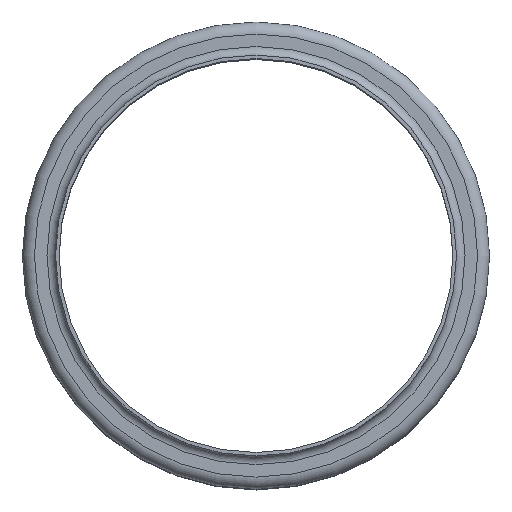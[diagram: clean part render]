
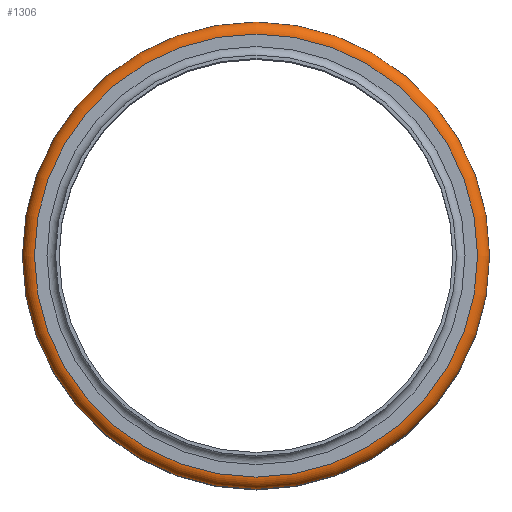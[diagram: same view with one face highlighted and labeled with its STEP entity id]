
A CAD part, top view. The second image highlights one B-rep face of the part: STEP entity #1306.
In plain terms, the highlighted toroidal (fillet/blend) face has major radius 153.562 mm and minor radius 8.363 mm.
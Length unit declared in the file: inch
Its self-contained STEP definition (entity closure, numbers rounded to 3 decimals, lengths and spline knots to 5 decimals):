
#79=TOROIDAL_SURFACE('',#1577,6.04575,0.32925);
#230=FACE_OUTER_BOUND('',#385,.T.);
#385=EDGE_LOOP('',(#1110,#1111,#1112,#1113));
#546=CIRCLE('',#1576,6.04575);
#547=CIRCLE('',#1578,6.04575);
#548=CIRCLE('',#1579,0.32925);
#659=VERTEX_POINT('',#2474);
#660=VERTEX_POINT('',#2477);
#812=EDGE_CURVE('',#659,#659,#546,.T.);
#813=EDGE_CURVE('',#660,#660,#547,.T.);
#814=EDGE_CURVE('',#660,#659,#548,.T.);
#1110=ORIENTED_EDGE('',*,*,#813,.F.);
#1111=ORIENTED_EDGE('',*,*,#814,.T.);
#1112=ORIENTED_EDGE('',*,*,#812,.T.);
#1113=ORIENTED_EDGE('',*,*,#814,.F.);
#1306=ADVANCED_FACE('',(#230),#79,.T.);
#1576=AXIS2_PLACEMENT_3D('',#2475,#2074,#2075);
#1577=AXIS2_PLACEMENT_3D('',#2476,#2076,#2077);
#1578=AXIS2_PLACEMENT_3D('',#2478,#2078,#2079);
#1579=AXIS2_PLACEMENT_3D('',#2479,#2080,#2081);
#2074=DIRECTION('center_axis',(0.,0.,-1.));
#2075=DIRECTION('ref_axis',(1.,0.,0.));
#2076=DIRECTION('center_axis',(0.,0.,-1.));
#2077=DIRECTION('ref_axis',(-1.,0.,0.));
#2078=DIRECTION('center_axis',(0.,0.,-1.));
#2079=DIRECTION('ref_axis',(1.,0.,0.));
#2080=DIRECTION('center_axis',(0.,-1.,0.));
#2081=DIRECTION('ref_axis',(1.,0.,0.));
#2474=CARTESIAN_POINT('',(6.04575,0.,-0.23325));
#2475=CARTESIAN_POINT('Origin',(0.,0.,-0.23325));
#2476=CARTESIAN_POINT('Origin',(0.,0.,-0.5625));
#2477=CARTESIAN_POINT('',(6.04575,0.,-0.89175));
#2478=CARTESIAN_POINT('Origin',(0.,0.,-0.89175));
#2479=CARTESIAN_POINT('Origin',(6.04575,0.,-0.5625));
